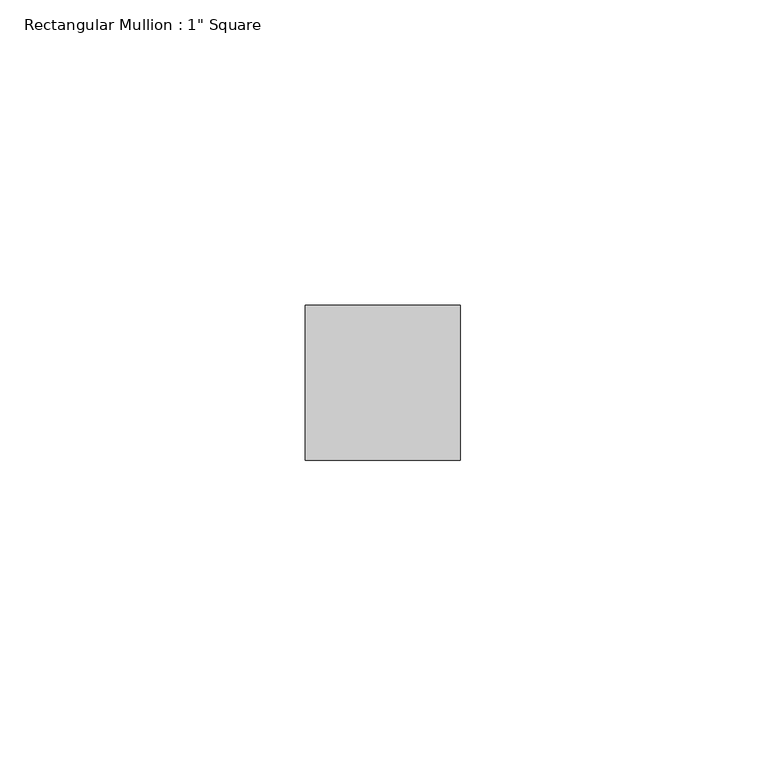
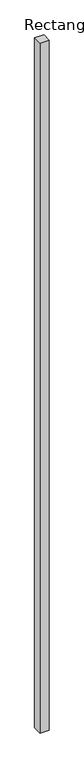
"""IFC4 building model written with IfcOpenShell, lengths in millimetres: member geometry."""

from ifc_helpers import new_model, si_unit, frame, origin, place, context, project, spatial, polyline, outline, extrude, source, transform, mapped, element, save


def member_cf5c4b1b(model_context):
    return source(origin(), model_context, "Body", "SweptSolid", [
        extrude(outline(polyline([(12.7, 12.7), (12.7, -12.7), (-12.7, -12.7), (-12.7, 12.7), (12.7, 12.7)])), frame((0.0, 0.0, -2010.1247208), z_axis=(0.0, 0.0, 1.0), x_axis=(1.0, 0.0, 0.0)), (0.0, 0.0, 1.0), 2010.1247208),
    ])


if __name__ == "__main__":
    model = new_model("IFC4")
    model_context = context("Model", 3, world=origin())
    ifc_project = project(units=[si_unit("LENGTHUNIT", "METRE", prefix="MILLI")], contexts=[model_context])
    site = spatial("IfcSite", under=ifc_project)
    building = spatial("IfcBuilding", under=site)
    placement = place(None, origin())
    member_shape = member_cf5c4b1b(model_context)
    element("IfcMember", 1, ObjectType="Rectangular Mullion : 1\" Square", at=placement, inside=building, context=model_context, shape_type="MappedRepresentation", body=[
        mapped(member_shape, transform((0.0, 0.0, 0.0), x_axis=(1.0, 0.0, 0.0), y_axis=(0.0, 1.0, 0.0), z_axis=(0.0, 0.0, 1.0))),
    ])
    save(model, "model.ifc")
